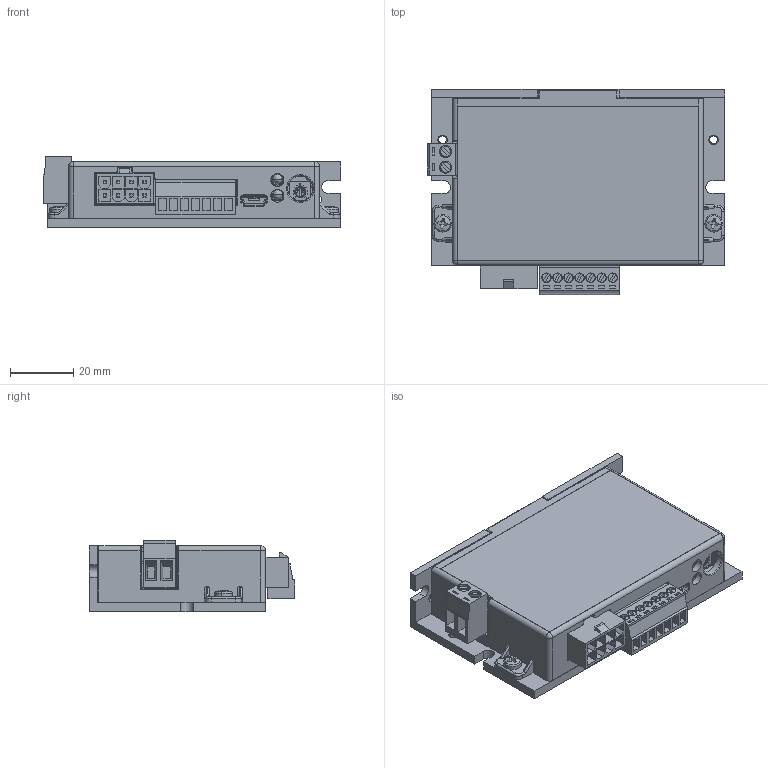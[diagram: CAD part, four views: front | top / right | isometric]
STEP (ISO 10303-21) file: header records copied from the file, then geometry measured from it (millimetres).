
FILE_DESCRIPTION (( 'STEP AP214' ), '1' );
FILE_NAME ('ZDRV.C10-200L.STEP', '2021-03-06T02:24:04', ( '' ), ( '' ), 'SwSTEP 2.0', 'SolidWorks 2019', '' );
FILE_SCHEMA (( 'AUTOMOTIVE_DESIGN' ));
Length unit declared in the file: millimetre
Products named in the file (4): C10-200L 祥湍脣芛.step; KF2EDGK-3.5-7P; ZDRV.C10-200L; KF2EDGK-5.0-2P
Assembly tree (3 placements, depth 2):
  ZDRV.C10-200L
    C10-200L 祥湍脣芛.step
    KF2EDGK-5.0-2P
    KF2EDGK-3.5-7P
Bounding box: 94.3 x 65.1 x 22.8 mm (x, y, z)
Volume: 45628.2 mm3; surface area: 46587.2 mm2
Topology: 3 solids, 7 shells, 1735 faces, 4532 edges, 2918 vertices
Faces by surface type: plane 1167, cylinder 381, bspline 116, cone 35, torus 34, sphere 2
Entity records: 57815 total; most frequent: CARTESIAN_POINT 14824, ORIENTED_EDGE 9024, DIRECTION 8222, EDGE_CURVE 4512, LINE 3288, VECTOR 3288, VERTEX_POINT 2916, AXIS2_PLACEMENT_3D 2467
